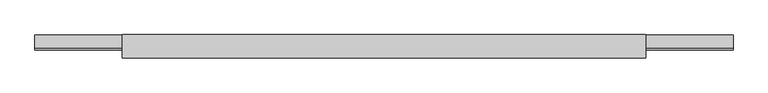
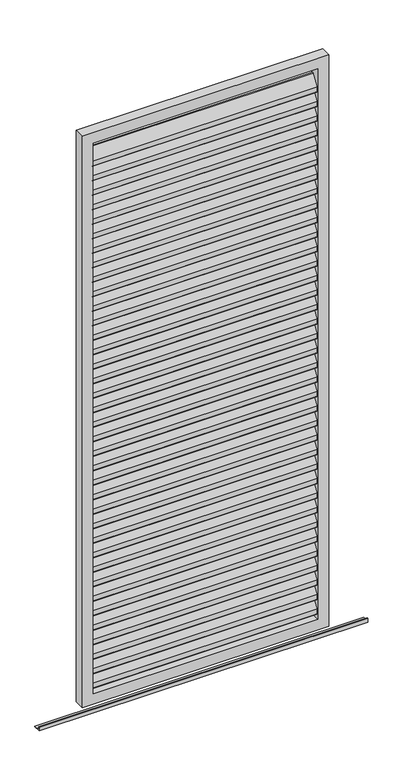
"""IFC4 building model written with IfcOpenShell, lengths in millimetres: proxy geometry."""

import ifcopenshell
import ifcopenshell.guid

model = None  # the IFC model being written
_history = None  # IfcOwnerHistory: only IFC2X3 demands one
_inside = {}  # id of a spatial element -> (the spatial element, [elements in it])
_under = {}  # id of a project, library or spatial element -> (it, [spatial elements below it])
_declared = {}  # id of a project -> (the project, [libraries it declares])
_typed = {}  # id of a type object -> (the type object, [elements of that type])
_made_of = {}  # id of a material, layer set ... -> (it, [elements and type objects made of it])


def new_model(schema):
    """Start an empty IFC model of exactly this schema.

    Asked for "IFC4X3", IfcOpenShell would pick the latest addendum, in which some entities
    have other attributes; the version numbers below select the first issue.
    IFC2X3 requires an IfcOwnerHistory on every rooted entity: one is made here for all.
    """
    global model, _history
    if schema == "IFC4X3":
        model = ifcopenshell.file(schema_version=(4, 3, 0, 0))
    else:
        model = ifcopenshell.file(schema=schema)
    _inside.clear()
    _under.clear()
    _declared.clear()
    _typed.clear()
    _made_of.clear()
    _history = None
    if model.schema == "IFC2X3":
        org = make("IfcOrganization", Name="unknown")
        user = make(
            "IfcPersonAndOrganization",
            ThePerson=make("IfcPerson", FamilyName="unknown"),
            TheOrganization=org,
        )
        app = make(
            "IfcApplication",
            ApplicationDeveloper=org,
            Version="unknown",
            ApplicationFullName="unknown",
            ApplicationIdentifier="unknown",
        )
        _history = make(
            "IfcOwnerHistory",
            OwningUser=user,
            OwningApplication=app,
            ChangeAction="ADDED",
            CreationDate=0,
        )
    return model


def make(cls, **values):
    """One entity of the class cls with the attributes given. An attribute that is None is left unset."""
    return model.create_entity(
        cls, **{name: value for name, value in values.items() if value is not None}
    )


def rooted(cls, **values):
    """An entity with a GlobalId (a new one), such as an element, a storey or a relation."""
    return make(cls, GlobalId=ifcopenshell.guid.new(), OwnerHistory=_history, **values)


def si_unit(unit_type, name, prefix=None):
    """IfcSIUnit, for example si_unit("LENGTHUNIT", "METRE", prefix="MILLI")."""
    return make("IfcSIUnit", UnitType=unit_type, Prefix=prefix, Name=name)


def assignment(units):
    """IfcUnitAssignment: the units of a project."""
    return None if units is None else make("IfcUnitAssignment", Units=units)


def point(xyz):
    """IfcCartesianPoint."""
    return None if xyz is None else make("IfcCartesianPoint", Coordinates=xyz)


def direction(xyz):
    """IfcDirection."""
    return None if xyz is None else make("IfcDirection", DirectionRatios=xyz)


def frame(location, z_axis=None, x_axis=None):
    """IfcAxis2Placement3D, a coordinate frame: its origin and axes. An axis left out is left unset."""
    return make(
        "IfcAxis2Placement3D",
        Location=point(location),
        Axis=direction(z_axis),
        RefDirection=direction(x_axis),
    )


def frame_2d(location, x_axis=None):
    """IfcAxis2Placement2D, a coordinate frame in the plane: its origin and x axis."""
    return make(
        "IfcAxis2Placement2D", Location=point(location), RefDirection=direction(x_axis)
    )


def origin():
    """The frame at (0, 0, 0) with its axes left unset."""
    return frame((0.0, 0.0, 0.0))


def place(relative_to, where):
    """IfcLocalPlacement: puts the frame where relative to a parent placement (None: the world)."""
    return make(
        "IfcLocalPlacement", PlacementRelTo=relative_to, RelativePlacement=where
    )


def context(
    kind, dimensions, precision=None, world=None, true_north=None, identifier=None
):
    """IfcGeometricRepresentationContext, for example the 3D "Model" context."""
    return make(
        "IfcGeometricRepresentationContext",
        ContextIdentifier=identifier,
        ContextType=kind,
        CoordinateSpaceDimension=dimensions,
        Precision=precision,
        WorldCoordinateSystem=world,
        TrueNorth=true_north,
    )


def project(units=None, contexts=None):
    """IfcProject with its units and contexts."""
    return rooted(
        "IfcProject",
        Name="project",
        RepresentationContexts=contexts,
        UnitsInContext=assignment(units),
    )


def spatial(cls, under=None, at=None, **own):
    """A site, building, storey or space (cls), placed at a placement, below another one or the project."""
    s = rooted(cls, ObjectPlacement=at, **own)
    if under is not None:
        _under.setdefault(under.id(), (under, []))[1].append(s)
    return s


def polyline(points):
    """IfcPolyline through the points."""
    return make("IfcPolyline", Points=[point(p) for p in points])


def circle_curve(where, radius):
    """IfcCircle in the frame where."""
    return make("IfcCircle", Position=where, Radius=radius)


def trimmed(basis, trim1, trim2, sense, master):
    """IfcTrimmedCurve: the piece of a basis curve between two trims."""
    return make(
        "IfcTrimmedCurve",
        BasisCurve=basis,
        Trim1=trim1,
        Trim2=trim2,
        SenseAgreement=sense,
        MasterRepresentation=master,
    )


def segment(curve, same_sense, transition):
    """IfcCompositeCurveSegment."""
    return make(
        "IfcCompositeCurveSegment",
        Transition=transition,
        SameSense=same_sense,
        ParentCurve=curve,
    )


def composite_curve(segments, self_intersect=None):
    """IfcCompositeCurve: segments joined end to end."""
    return make("IfcCompositeCurve", Segments=segments, SelfIntersect=self_intersect)


def outline(outer, holes=None, kind="AREA"):
    """IfcArbitraryClosedProfileDef: a profile drawn as a closed curve; with holes, ...WithVoids."""
    if holes is None:
        return make("IfcArbitraryClosedProfileDef", ProfileType=kind, OuterCurve=outer)
    return make(
        "IfcArbitraryProfileDefWithVoids",
        ProfileType=kind,
        OuterCurve=outer,
        InnerCurves=holes,
    )


def extrude(swept, where, along, depth):
    """IfcExtrudedAreaSolid: the profile swept, set in the frame where, extruded along a direction by depth."""
    return make(
        "IfcExtrudedAreaSolid",
        SweptArea=swept,
        Position=where,
        ExtrudedDirection=direction(along),
        Depth=depth,
    )


def shape(context_of_items, identifier, shape_type, items):
    """IfcShapeRepresentation: the items that make up one representation, for example the "Body"."""
    return make(
        "IfcShapeRepresentation",
        ContextOfItems=context_of_items,
        RepresentationIdentifier=identifier,
        RepresentationType=shape_type,
        Items=items,
    )


def source(mapping_origin, context_of_items, identifier, shape_type, items):
    """IfcRepresentationMap: a shape defined once, which mapped items show again and again."""
    return make(
        "IfcRepresentationMap",
        MappingOrigin=mapping_origin,
        MappedRepresentation=shape(context_of_items, identifier, shape_type, items),
    )


def transform(
    local_origin,
    x_axis=None,
    y_axis=None,
    z_axis=None,
    scale=None,
    scale2=None,
    scale3=None,
    uniform=True,
):
    """IfcCartesianTransformationOperator3D, or its non-uniform kind. x_axis, y_axis, z_axis: its Axis1, 2, 3."""
    if uniform:
        return make(
            "IfcCartesianTransformationOperator3D",
            Axis1=direction(x_axis),
            Axis2=direction(y_axis),
            LocalOrigin=point(local_origin),
            Scale=scale,
            Axis3=direction(z_axis),
        )
    return make(
        "IfcCartesianTransformationOperator3DnonUniform",
        Axis1=direction(x_axis),
        Axis2=direction(y_axis),
        LocalOrigin=point(local_origin),
        Scale=scale,
        Axis3=direction(z_axis),
        Scale2=scale2,
        Scale3=scale3,
    )


def mapped(mapping_source, mapping_target):
    """IfcMappedItem: shows the shape of a source again, moved by a transform."""
    return make(
        "IfcMappedItem", MappingSource=mapping_source, MappingTarget=mapping_target
    )


def made_of(thing, what):
    """Note that an element or type object is made of a material, layer set ...; save() writes the relation."""
    if what is not None:
        _made_of.setdefault(what.id(), (what, []))[1].append(thing)
    return thing


def element(
    cls,
    number,
    at=None,
    inside=None,
    cuts=None,
    type_object=None,
    material=None,
    context=None,
    identifier="Body",
    shape_type=None,
    held_by="IfcProductDefinitionShape",
    body=None,
    shapes=None,
    **own,
):
    """One element of the class cls, such as IfcWall. Its Tag is "e" and its number.

    at: its placement. inside: the storey or other place that contains it. cuts: it is an
    opening in that element (IfcRelVoidsElement). A single representation is given by context,
    identifier, shape_type and body (its items); several are given by shapes. held_by: the class
    of the entity that holds the representations. save() writes the other relations.
    """
    e = rooted(cls, Tag="e%d" % number, ObjectPlacement=at, **own)
    if body is not None:
        shapes = [shape(context, identifier, shape_type, body)]
    if shapes is not None:
        e.Representation = make(held_by, Representations=shapes)
    if inside is not None:
        _inside.setdefault(inside.id(), (inside, []))[1].append(e)
    if cuts is not None:
        rooted(
            "IfcRelVoidsElement", RelatingBuildingElement=cuts, RelatedOpeningElement=e
        )
    if type_object is not None:
        _typed.setdefault(type_object.id(), (type_object, []))[1].append(e)
    return made_of(e, material)


def aggregate(whole, parts):
    """IfcRelAggregates: a whole, such as a stair, and the parts it consists of."""
    return rooted("IfcRelAggregates", RelatingObject=whole, RelatedObjects=parts)


def save(model, path):
    """Write the relations noted so far, then the file.

    IfcRelAggregates (storeys below a building ...), IfcRelContainedInSpatialStructure (elements
    in a storey), IfcRelDefinesByType, IfcRelAssociatesMaterial and IfcRelDeclares: one each for
    every whole, place, type object, material and project.
    """
    for whole, parts in _under.values():
        aggregate(whole, parts)
    for where, things in _inside.values():
        rooted(
            "IfcRelContainedInSpatialStructure",
            RelatedElements=things,
            RelatingStructure=where,
        )
    for kind, things in _typed.values():
        rooted("IfcRelDefinesByType", RelatedObjects=things, RelatingType=kind)
    for what, things in _made_of.values():
        rooted("IfcRelAssociatesMaterial", RelatedObjects=things, RelatingMaterial=what)
    for by, libraries in _declared.values():
        rooted("IfcRelDeclares", RelatingContext=by, RelatedDefinitions=libraries)
    model.write(path)


def generic_models_5eeff375(model_context):
    return source(origin(), model_context, "Body", "SweptSolid", [
        extrude(outline(composite_curve([segment(trimmed(circle_curve(frame_2d((12.6675921, 2173.678711)), 3.0), [point((10.1515804, 2175.3126281))], [point((15.6675921, 2173.678711))], False, "CARTESIAN"), True, "CONTINUOUS"), segment(polyline([(15.6675921, 2173.678711), (15.6675921, 2155.3179264)]), True, "CONTINUOUS"), segment(trimmed(circle_curve(frame_2d((12.6675921, 2155.3179264)), 3.0), [point((15.6675921, 2155.3179264))], [point((15.1836038, 2153.6840093))], False, "CARTESIAN"), True, "CONTINUOUS"), segment(polyline([(15.1836038, 2153.6840093), (-8.8163962, 2116.7272502)]), True, "CONTINUOUS"), segment(trimmed(circle_curve(frame_2d((-11.3324079, 2118.3611673)), 3.0), [point((-8.8163962, 2116.7272502))], [point((-14.3324079, 2118.3611673))], False, "CARTESIAN"), True, "CONTINUOUS"), segment(polyline([(-14.3324079, 2118.3611673), (-14.3324079, 2137.6105924), (10.1515804, 2175.3126281)]), True, "CONTINUOUS")], self_intersect=False)), frame((-410.0, 0.0, 0.0), z_axis=(1.0, 0.0, 0.0), x_axis=(0.0, 1.0, 0.0)), (0.0, 0.0, 1.0), 820.0),
        extrude(outline(composite_curve([segment(trimmed(circle_curve(frame_2d((12.6675921, 2117.7067127)), 3.0), [point((10.1515804, 2119.3406298))], [point((15.6675921, 2117.7067127))], False, "CARTESIAN"), True, "CONTINUOUS"), segment(polyline([(15.6675921, 2117.7067127), (15.6675921, 2099.3459282)]), True, "CONTINUOUS"), segment(trimmed(circle_curve(frame_2d((12.6675921, 2099.3459282)), 3.0), [point((15.6675921, 2099.3459282))], [point((15.1836038, 2097.7120111))], False, "CARTESIAN"), True, "CONTINUOUS"), segment(polyline([(15.1836038, 2097.7120111), (-8.8163962, 2060.7552519)]), True, "CONTINUOUS"), segment(trimmed(circle_curve(frame_2d((-11.3324079, 2062.389169)), 3.0), [point((-8.8163962, 2060.7552519))], [point((-14.3324079, 2062.389169))], False, "CARTESIAN"), True, "CONTINUOUS"), segment(polyline([(-14.3324079, 2062.389169), (-14.3324079, 2081.6385941), (10.1515804, 2119.3406298)]), True, "CONTINUOUS")], self_intersect=False)), frame((-410.0, 0.0, 0.0), z_axis=(1.0, 0.0, 0.0), x_axis=(0.0, 1.0, 0.0)), (0.0, 0.0, 1.0), 820.0),
        extrude(outline(composite_curve([segment(trimmed(circle_curve(frame_2d((12.6675921, 2061.7347145)), 3.0), [point((10.1515804, 2063.3686316))], [point((15.6675921, 2061.7347145))], False, "CARTESIAN"), True, "CONTINUOUS"), segment(polyline([(15.6675921, 2061.7347145), (15.6675921, 2043.3739299)]), True, "CONTINUOUS"), segment(trimmed(circle_curve(frame_2d((12.6675921, 2043.3739299)), 3.0), [point((15.6675921, 2043.3739299))], [point((15.1836038, 2041.7400128))], False, "CARTESIAN"), True, "CONTINUOUS"), segment(polyline([(15.1836038, 2041.7400128), (-8.8163962, 2004.7832537)]), True, "CONTINUOUS"), segment(trimmed(circle_curve(frame_2d((-11.3324079, 2006.4171708)), 3.0), [point((-8.8163962, 2004.7832537))], [point((-14.3324079, 2006.4171708))], False, "CARTESIAN"), True, "CONTINUOUS"), segment(polyline([(-14.3324079, 2006.4171708), (-14.3324079, 2025.6665958), (10.1515804, 2063.3686316)]), True, "CONTINUOUS")], self_intersect=False)), frame((-410.0, 0.0, 0.0), z_axis=(1.0, 0.0, 0.0), x_axis=(0.0, 1.0, 0.0)), (0.0, 0.0, 1.0), 820.0),
        extrude(outline(composite_curve([segment(trimmed(circle_curve(frame_2d((12.6675921, 2005.7627162)), 3.0), [point((10.1515804, 2007.3966333))], [point((15.6675921, 2005.7627162))], False, "CARTESIAN"), True, "CONTINUOUS"), segment(polyline([(15.6675921, 2005.7627162), (15.6675921, 1987.4019316)]), True, "CONTINUOUS"), segment(trimmed(circle_curve(frame_2d((12.6675921, 1987.4019316)), 3.0), [point((15.6675921, 1987.4019316))], [point((15.1836038, 1985.7680145))], False, "CARTESIAN"), True, "CONTINUOUS"), segment(polyline([(15.1836038, 1985.7680145), (-8.8163962, 1948.8112554)]), True, "CONTINUOUS"), segment(trimmed(circle_curve(frame_2d((-11.3324079, 1950.4451725)), 3.0), [point((-8.8163962, 1948.8112554))], [point((-14.3324079, 1950.4451725))], False, "CARTESIAN"), True, "CONTINUOUS"), segment(polyline([(-14.3324079, 1950.4451725), (-14.3324079, 1969.6945976), (10.1515804, 2007.3966333)]), True, "CONTINUOUS")], self_intersect=False)), frame((-410.0, 0.0, 0.0), z_axis=(1.0, 0.0, 0.0), x_axis=(0.0, 1.0, 0.0)), (0.0, 0.0, 1.0), 820.0),
        extrude(outline(composite_curve([segment(trimmed(circle_curve(frame_2d((12.6675921, 1949.790718)), 3.0), [point((10.1515804, 1951.4246351))], [point((15.6675921, 1949.790718))], False, "CARTESIAN"), True, "CONTINUOUS"), segment(polyline([(15.6675921, 1949.790718), (15.6675921, 1931.4299334)]), True, "CONTINUOUS"), segment(trimmed(circle_curve(frame_2d((12.6675921, 1931.4299334)), 3.0), [point((15.6675921, 1931.4299334))], [point((15.1836038, 1929.7960163))], False, "CARTESIAN"), True, "CONTINUOUS"), segment(polyline([(15.1836038, 1929.7960163), (-8.8163962, 1892.8392571)]), True, "CONTINUOUS"), segment(trimmed(circle_curve(frame_2d((-11.3324079, 1894.4731742)), 3.0), [point((-8.8163962, 1892.8392571))], [point((-14.3324079, 1894.4731742))], False, "CARTESIAN"), True, "CONTINUOUS"), segment(polyline([(-14.3324079, 1894.4731742), (-14.3324079, 1913.7225993), (10.1515804, 1951.4246351)]), True, "CONTINUOUS")], self_intersect=False)), frame((-410.0, 0.0, 0.0), z_axis=(1.0, 0.0, 0.0), x_axis=(0.0, 1.0, 0.0)), (0.0, 0.0, 1.0), 820.0),
        extrude(outline(composite_curve([segment(trimmed(circle_curve(frame_2d((12.6675921, 1893.8187197)), 3.0), [point((10.1515804, 1895.4526368))], [point((15.6675921, 1893.8187197))], False, "CARTESIAN"), True, "CONTINUOUS"), segment(polyline([(15.6675921, 1893.8187197), (15.6675921, 1875.4579351)]), True, "CONTINUOUS"), segment(trimmed(circle_curve(frame_2d((12.6675921, 1875.4579351)), 3.0), [point((15.6675921, 1875.4579351))], [point((15.1836038, 1873.824018))], False, "CARTESIAN"), True, "CONTINUOUS"), segment(polyline([(15.1836038, 1873.824018), (-8.8163962, 1836.8672589)]), True, "CONTINUOUS"), segment(trimmed(circle_curve(frame_2d((-11.3324079, 1838.501176)), 3.0), [point((-8.8163962, 1836.8672589))], [point((-14.3324079, 1838.501176))], False, "CARTESIAN"), True, "CONTINUOUS"), segment(polyline([(-14.3324079, 1838.501176), (-14.3324079, 1857.7506011), (10.1515804, 1895.4526368)]), True, "CONTINUOUS")], self_intersect=False)), frame((-410.0, 0.0, 0.0), z_axis=(1.0, 0.0, 0.0), x_axis=(0.0, 1.0, 0.0)), (0.0, 0.0, 1.0), 820.0),
        extrude(outline(composite_curve([segment(trimmed(circle_curve(frame_2d((12.6675921, 1837.8467214)), 3.0), [point((10.1515804, 1839.4806385))], [point((15.6675921, 1837.8467214))], False, "CARTESIAN"), True, "CONTINUOUS"), segment(polyline([(15.6675921, 1837.8467214), (15.6675921, 1819.4859368)]), True, "CONTINUOUS"), segment(trimmed(circle_curve(frame_2d((12.6675921, 1819.4859368)), 3.0), [point((15.6675921, 1819.4859368))], [point((15.1836038, 1817.8520197))], False, "CARTESIAN"), True, "CONTINUOUS"), segment(polyline([(15.1836038, 1817.8520197), (-8.8163962, 1780.8952606)]), True, "CONTINUOUS"), segment(trimmed(circle_curve(frame_2d((-11.3324079, 1782.5291777)), 3.0), [point((-8.8163962, 1780.8952606))], [point((-14.3324079, 1782.5291777))], False, "CARTESIAN"), True, "CONTINUOUS"), segment(polyline([(-14.3324079, 1782.5291777), (-14.3324079, 1801.7786028), (10.1515804, 1839.4806385)]), True, "CONTINUOUS")], self_intersect=False)), frame((-410.0, 0.0, 0.0), z_axis=(1.0, 0.0, 0.0), x_axis=(0.0, 1.0, 0.0)), (0.0, 0.0, 1.0), 820.0),
        extrude(outline(composite_curve([segment(trimmed(circle_curve(frame_2d((12.6675921, 1781.8747232)), 3.0), [point((10.1515804, 1783.5086403))], [point((15.6675921, 1781.8747232))], False, "CARTESIAN"), True, "CONTINUOUS"), segment(polyline([(15.6675921, 1781.8747232), (15.6675921, 1763.5139386)]), True, "CONTINUOUS"), segment(trimmed(circle_curve(frame_2d((12.6675921, 1763.5139386)), 3.0), [point((15.6675921, 1763.5139386))], [point((15.1836038, 1761.8800215))], False, "CARTESIAN"), True, "CONTINUOUS"), segment(polyline([(15.1836038, 1761.8800215), (-8.8163962, 1724.9232624)]), True, "CONTINUOUS"), segment(trimmed(circle_curve(frame_2d((-11.3324079, 1726.5571795)), 3.0), [point((-8.8163962, 1724.9232624))], [point((-14.3324079, 1726.5571795))], False, "CARTESIAN"), True, "CONTINUOUS"), segment(polyline([(-14.3324079, 1726.5571795), (-14.3324079, 1745.8066045), (10.1515804, 1783.5086403)]), True, "CONTINUOUS")], self_intersect=False)), frame((-410.0, 0.0, 0.0), z_axis=(1.0, 0.0, 0.0), x_axis=(0.0, 1.0, 0.0)), (0.0, 0.0, 1.0), 820.0),
        extrude(outline(composite_curve([segment(trimmed(circle_curve(frame_2d((12.6675921, 1725.9027249)), 3.0), [point((10.1515804, 1727.536642))], [point((15.6675921, 1725.9027249))], False, "CARTESIAN"), True, "CONTINUOUS"), segment(polyline([(15.6675921, 1725.9027249), (15.6675921, 1707.5419403)]), True, "CONTINUOUS"), segment(trimmed(circle_curve(frame_2d((12.6675921, 1707.5419403)), 3.0), [point((15.6675921, 1707.5419403))], [point((15.1836038, 1705.9080232))], False, "CARTESIAN"), True, "CONTINUOUS"), segment(polyline([(15.1836038, 1705.9080232), (-8.8163962, 1668.9512641)]), True, "CONTINUOUS"), segment(trimmed(circle_curve(frame_2d((-11.3324079, 1670.5851812)), 3.0), [point((-8.8163962, 1668.9512641))], [point((-14.3324079, 1670.5851812))], False, "CARTESIAN"), True, "CONTINUOUS"), segment(polyline([(-14.3324079, 1670.5851812), (-14.3324079, 1689.8346063), (10.1515804, 1727.536642)]), True, "CONTINUOUS")], self_intersect=False)), frame((-410.0, 0.0, 0.0), z_axis=(1.0, 0.0, 0.0), x_axis=(0.0, 1.0, 0.0)), (0.0, 0.0, 1.0), 820.0),
        extrude(outline(composite_curve([segment(trimmed(circle_curve(frame_2d((12.6675921, 1669.9307267)), 3.0), [point((10.1515804, 1671.5646438))], [point((15.6675921, 1669.9307267))], False, "CARTESIAN"), True, "CONTINUOUS"), segment(polyline([(15.6675921, 1669.9307267), (15.6675921, 1651.5699421)]), True, "CONTINUOUS"), segment(trimmed(circle_curve(frame_2d((12.6675921, 1651.5699421)), 3.0), [point((15.6675921, 1651.5699421))], [point((15.1836038, 1649.936025))], False, "CARTESIAN"), True, "CONTINUOUS"), segment(polyline([(15.1836038, 1649.936025), (-8.8163962, 1612.9792658)]), True, "CONTINUOUS"), segment(trimmed(circle_curve(frame_2d((-11.3324079, 1614.6131829)), 3.0), [point((-8.8163962, 1612.9792658))], [point((-14.3324079, 1614.6131829))], False, "CARTESIAN"), True, "CONTINUOUS"), segment(polyline([(-14.3324079, 1614.6131829), (-14.3324079, 1633.862608), (10.1515804, 1671.5646438)]), True, "CONTINUOUS")], self_intersect=False)), frame((-410.0, 0.0, 0.0), z_axis=(1.0, 0.0, 0.0), x_axis=(0.0, 1.0, 0.0)), (0.0, 0.0, 1.0), 820.0),
        extrude(outline(composite_curve([segment(trimmed(circle_curve(frame_2d((12.6675921, 1613.9587284)), 3.0), [point((10.1515804, 1615.5926455))], [point((15.6675921, 1613.9587284))], False, "CARTESIAN"), True, "CONTINUOUS"), segment(polyline([(15.6675921, 1613.9587284), (15.6675921, 1595.5979438)]), True, "CONTINUOUS"), segment(trimmed(circle_curve(frame_2d((12.6675921, 1595.5979438)), 3.0), [point((15.6675921, 1595.5979438))], [point((15.1836038, 1593.9640267))], False, "CARTESIAN"), True, "CONTINUOUS"), segment(polyline([(15.1836038, 1593.9640267), (-8.8163962, 1557.0072676)]), True, "CONTINUOUS"), segment(trimmed(circle_curve(frame_2d((-11.3324079, 1558.6411847)), 3.0), [point((-8.8163962, 1557.0072676))], [point((-14.3324079, 1558.6411847))], False, "CARTESIAN"), True, "CONTINUOUS"), segment(polyline([(-14.3324079, 1558.6411847), (-14.3324079, 1577.8906097), (10.1515804, 1615.5926455)]), True, "CONTINUOUS")], self_intersect=False)), frame((-410.0, 0.0, 0.0), z_axis=(1.0, 0.0, 0.0), x_axis=(0.0, 1.0, 0.0)), (0.0, 0.0, 1.0), 820.0),
        extrude(outline(composite_curve([segment(trimmed(circle_curve(frame_2d((12.6675921, 1557.9867301)), 3.0), [point((10.1515804, 1559.6206472))], [point((15.6675921, 1557.9867301))], False, "CARTESIAN"), True, "CONTINUOUS"), segment(polyline([(15.6675921, 1557.9867301), (15.6675921, 1539.6259455)]), True, "CONTINUOUS"), segment(trimmed(circle_curve(frame_2d((12.6675921, 1539.6259455)), 3.0), [point((15.6675921, 1539.6259455))], [point((15.1836038, 1537.9920284))], False, "CARTESIAN"), True, "CONTINUOUS"), segment(polyline([(15.1836038, 1537.9920284), (-8.8163962, 1501.0352693)]), True, "CONTINUOUS"), segment(trimmed(circle_curve(frame_2d((-11.3324079, 1502.6691864)), 3.0), [point((-8.8163962, 1501.0352693))], [point((-14.3324079, 1502.6691864))], False, "CARTESIAN"), True, "CONTINUOUS"), segment(polyline([(-14.3324079, 1502.6691864), (-14.3324079, 1521.9186115), (10.1515804, 1559.6206472)]), True, "CONTINUOUS")], self_intersect=False)), frame((-410.0, 0.0, 0.0), z_axis=(1.0, 0.0, 0.0), x_axis=(0.0, 1.0, 0.0)), (0.0, 0.0, 1.0), 820.0),
        extrude(outline(composite_curve([segment(trimmed(circle_curve(frame_2d((12.6675921, 1502.0147319)), 3.0), [point((10.1515804, 1503.648649))], [point((15.6675921, 1502.0147319))], False, "CARTESIAN"), True, "CONTINUOUS"), segment(polyline([(15.6675921, 1502.0147319), (15.6675921, 1483.6539473)]), True, "CONTINUOUS"), segment(trimmed(circle_curve(frame_2d((12.6675921, 1483.6539473)), 3.0), [point((15.6675921, 1483.6539473))], [point((15.1836038, 1482.0200302))], False, "CARTESIAN"), True, "CONTINUOUS"), segment(polyline([(15.1836038, 1482.0200302), (-8.8163962, 1445.063271)]), True, "CONTINUOUS"), segment(trimmed(circle_curve(frame_2d((-11.3324079, 1446.6971881)), 3.0), [point((-8.8163962, 1445.063271))], [point((-14.3324079, 1446.6971881))], False, "CARTESIAN"), True, "CONTINUOUS"), segment(polyline([(-14.3324079, 1446.6971881), (-14.3324079, 1465.9466132), (10.1515804, 1503.648649)]), True, "CONTINUOUS")], self_intersect=False)), frame((-410.0, 0.0, 0.0), z_axis=(1.0, 0.0, 0.0), x_axis=(0.0, 1.0, 0.0)), (0.0, 0.0, 1.0), 820.0),
        extrude(outline(composite_curve([segment(trimmed(circle_curve(frame_2d((12.6675921, 1446.0427336)), 3.0), [point((10.1515804, 1447.6766507))], [point((15.6675921, 1446.0427336))], False, "CARTESIAN"), True, "CONTINUOUS"), segment(polyline([(15.6675921, 1446.0427336), (15.6675921, 1427.681949)]), True, "CONTINUOUS"), segment(trimmed(circle_curve(frame_2d((12.6675921, 1427.681949)), 3.0), [point((15.6675921, 1427.681949))], [point((15.1836038, 1426.0480319))], False, "CARTESIAN"), True, "CONTINUOUS"), segment(polyline([(15.1836038, 1426.0480319), (-8.8163962, 1389.0912728)]), True, "CONTINUOUS"), segment(trimmed(circle_curve(frame_2d((-11.3324079, 1390.7251899)), 3.0), [point((-8.8163962, 1389.0912728))], [point((-14.3324079, 1390.7251899))], False, "CARTESIAN"), True, "CONTINUOUS"), segment(polyline([(-14.3324079, 1390.7251899), (-14.3324079, 1409.974615), (10.1515804, 1447.6766507)]), True, "CONTINUOUS")], self_intersect=False)), frame((-410.0, 0.0, 0.0), z_axis=(1.0, 0.0, 0.0), x_axis=(0.0, 1.0, 0.0)), (0.0, 0.0, 1.0), 820.0),
        extrude(outline(composite_curve([segment(trimmed(circle_curve(frame_2d((12.6675921, 1390.0707353)), 3.0), [point((10.1515804, 1391.7046525))], [point((15.6675921, 1390.0707353))], False, "CARTESIAN"), True, "CONTINUOUS"), segment(polyline([(15.6675921, 1390.0707353), (15.6675921, 1371.7099508)]), True, "CONTINUOUS"), segment(trimmed(circle_curve(frame_2d((12.6675921, 1371.7099508)), 3.0), [point((15.6675921, 1371.7099508))], [point((15.1836038, 1370.0760337))], False, "CARTESIAN"), True, "CONTINUOUS"), segment(polyline([(15.1836038, 1370.0760337), (-8.8163962, 1333.1192745)]), True, "CONTINUOUS"), segment(trimmed(circle_curve(frame_2d((-11.3324079, 1334.7531916)), 3.0), [point((-8.8163962, 1333.1192745))], [point((-14.3324079, 1334.7531916))], False, "CARTESIAN"), True, "CONTINUOUS"), segment(polyline([(-14.3324079, 1334.7531916), (-14.3324079, 1354.0026167), (10.1515804, 1391.7046525)]), True, "CONTINUOUS")], self_intersect=False)), frame((-410.0, 0.0, 0.0), z_axis=(1.0, 0.0, 0.0), x_axis=(0.0, 1.0, 0.0)), (0.0, 0.0, 1.0), 820.0),
        extrude(outline(composite_curve([segment(trimmed(circle_curve(frame_2d((12.6675921, 1334.0987371)), 3.0), [point((10.1515804, 1335.7326542))], [point((15.6675921, 1334.0987371))], False, "CARTESIAN"), True, "CONTINUOUS"), segment(polyline([(15.6675921, 1334.0987371), (15.6675921, 1315.7379525)]), True, "CONTINUOUS"), segment(trimmed(circle_curve(frame_2d((12.6675921, 1315.7379525)), 3.0), [point((15.6675921, 1315.7379525))], [point((15.1836038, 1314.1040354))], False, "CARTESIAN"), True, "CONTINUOUS"), segment(polyline([(15.1836038, 1314.1040354), (-8.8163962, 1277.1472763)]), True, "CONTINUOUS"), segment(trimmed(circle_curve(frame_2d((-11.3324079, 1278.7811934)), 3.0), [point((-8.8163962, 1277.1472763))], [point((-14.3324079, 1278.7811934))], False, "CARTESIAN"), True, "CONTINUOUS"), segment(polyline([(-14.3324079, 1278.7811934), (-14.3324079, 1298.0306184), (10.1515804, 1335.7326542)]), True, "CONTINUOUS")], self_intersect=False)), frame((-410.0, 0.0, 0.0), z_axis=(1.0, 0.0, 0.0), x_axis=(0.0, 1.0, 0.0)), (0.0, 0.0, 1.0), 820.0),
        extrude(outline(composite_curve([segment(trimmed(circle_curve(frame_2d((12.6675921, 1278.1267388)), 3.0), [point((10.1515804, 1279.7606559))], [point((15.6675921, 1278.1267388))], False, "CARTESIAN"), True, "CONTINUOUS"), segment(polyline([(15.6675921, 1278.1267388), (15.6675921, 1259.7659542)]), True, "CONTINUOUS"), segment(trimmed(circle_curve(frame_2d((12.6675921, 1259.7659542)), 3.0), [point((15.6675921, 1259.7659542))], [point((15.1836038, 1258.1320371))], False, "CARTESIAN"), True, "CONTINUOUS"), segment(polyline([(15.1836038, 1258.1320371), (-8.8163962, 1221.175278)]), True, "CONTINUOUS"), segment(trimmed(circle_curve(frame_2d((-11.3324079, 1222.8091951)), 3.0), [point((-8.8163962, 1221.175278))], [point((-14.3324079, 1222.8091951))], False, "CARTESIAN"), True, "CONTINUOUS"), segment(polyline([(-14.3324079, 1222.8091951), (-14.3324079, 1242.0586202), (10.1515804, 1279.7606559)]), True, "CONTINUOUS")], self_intersect=False)), frame((-410.0, 0.0, 0.0), z_axis=(1.0, 0.0, 0.0), x_axis=(0.0, 1.0, 0.0)), (0.0, 0.0, 1.0), 820.0),
        extrude(outline(composite_curve([segment(trimmed(circle_curve(frame_2d((12.6675921, 1222.1547406)), 3.0), [point((10.1515804, 1223.7886577))], [point((15.6675921, 1222.1547406))], False, "CARTESIAN"), True, "CONTINUOUS"), segment(polyline([(15.6675921, 1222.1547406), (15.6675921, 1203.793956)]), True, "CONTINUOUS"), segment(trimmed(circle_curve(frame_2d((12.6675921, 1203.793956)), 3.0), [point((15.6675921, 1203.793956))], [point((15.1836038, 1202.1600389))], False, "CARTESIAN"), True, "CONTINUOUS"), segment(polyline([(15.1836038, 1202.1600389), (-8.8163962, 1165.2032797)]), True, "CONTINUOUS"), segment(trimmed(circle_curve(frame_2d((-11.3324079, 1166.8371968)), 3.0), [point((-8.8163962, 1165.2032797))], [point((-14.3324079, 1166.8371968))], False, "CARTESIAN"), True, "CONTINUOUS"), segment(polyline([(-14.3324079, 1166.8371968), (-14.3324079, 1186.0866219), (10.1515804, 1223.7886577)]), True, "CONTINUOUS")], self_intersect=False)), frame((-410.0, 0.0, 0.0), z_axis=(1.0, 0.0, 0.0), x_axis=(0.0, 1.0, 0.0)), (0.0, 0.0, 1.0), 820.0),
        extrude(outline(composite_curve([segment(trimmed(circle_curve(frame_2d((12.6675921, 1166.1827423)), 3.0), [point((10.1515804, 1167.8166594))], [point((15.6675921, 1166.1827423))], False, "CARTESIAN"), True, "CONTINUOUS"), segment(polyline([(15.6675921, 1166.1827423), (15.6675921, 1147.8219577)]), True, "CONTINUOUS"), segment(trimmed(circle_curve(frame_2d((12.6675921, 1147.8219577)), 3.0), [point((15.6675921, 1147.8219577))], [point((15.1836038, 1146.1880406))], False, "CARTESIAN"), True, "CONTINUOUS"), segment(polyline([(15.1836038, 1146.1880406), (-8.8163962, 1109.2312815)]), True, "CONTINUOUS"), segment(trimmed(circle_curve(frame_2d((-11.3324079, 1110.8651986)), 3.0), [point((-8.8163962, 1109.2312815))], [point((-14.3324079, 1110.8651986))], False, "CARTESIAN"), True, "CONTINUOUS"), segment(polyline([(-14.3324079, 1110.8651986), (-14.3324079, 1130.1146237), (10.1515804, 1167.8166594)]), True, "CONTINUOUS")], self_intersect=False)), frame((-410.0, 0.0, 0.0), z_axis=(1.0, 0.0, 0.0), x_axis=(0.0, 1.0, 0.0)), (0.0, 0.0, 1.0), 820.0),
        extrude(outline(composite_curve([segment(trimmed(circle_curve(frame_2d((12.6675921, 1110.210744)), 3.0), [point((10.1515804, 1111.8446611))], [point((15.6675921, 1110.210744))], False, "CARTESIAN"), True, "CONTINUOUS"), segment(polyline([(15.6675921, 1110.210744), (15.6675921, 1091.8499595)]), True, "CONTINUOUS"), segment(trimmed(circle_curve(frame_2d((12.6675921, 1091.8499595)), 3.0), [point((15.6675921, 1091.8499595))], [point((15.1836038, 1090.2160423))], False, "CARTESIAN"), True, "CONTINUOUS"), segment(polyline([(15.1836038, 1090.2160423), (-8.8163962, 1053.2592832)]), True, "CONTINUOUS"), segment(trimmed(circle_curve(frame_2d((-11.3324079, 1054.8932003)), 3.0), [point((-8.8163962, 1053.2592832))], [point((-14.3324079, 1054.8932003))], False, "CARTESIAN"), True, "CONTINUOUS"), segment(polyline([(-14.3324079, 1054.8932003), (-14.3324079, 1074.1426254), (10.1515804, 1111.8446611)]), True, "CONTINUOUS")], self_intersect=False)), frame((-410.0, 0.0, 0.0), z_axis=(1.0, 0.0, 0.0), x_axis=(0.0, 1.0, 0.0)), (0.0, 0.0, 1.0), 820.0),
        extrude(outline(composite_curve([segment(trimmed(circle_curve(frame_2d((12.6675921, 1054.2387458)), 3.0), [point((10.1515804, 1055.8726629))], [point((15.6675921, 1054.2387458))], False, "CARTESIAN"), True, "CONTINUOUS"), segment(polyline([(15.6675921, 1054.2387458), (15.6675921, 1035.8779612)]), True, "CONTINUOUS"), segment(trimmed(circle_curve(frame_2d((12.6675921, 1035.8779612)), 3.0), [point((15.6675921, 1035.8779612))], [point((15.1836038, 1034.2440441))], False, "CARTESIAN"), True, "CONTINUOUS"), segment(polyline([(15.1836038, 1034.2440441), (-8.8163962, 997.287285)]), True, "CONTINUOUS"), segment(trimmed(circle_curve(frame_2d((-11.3324079, 998.9212021)), 3.0), [point((-8.8163962, 997.287285))], [point((-14.3324079, 998.9212021))], False, "CARTESIAN"), True, "CONTINUOUS"), segment(polyline([(-14.3324079, 998.9212021), (-14.3324079, 1018.1706271), (10.1515804, 1055.8726629)]), True, "CONTINUOUS")], self_intersect=False)), frame((-410.0, 0.0, 0.0), z_axis=(1.0, 0.0, 0.0), x_axis=(0.0, 1.0, 0.0)), (0.0, 0.0, 1.0), 820.0),
        extrude(outline(composite_curve([segment(trimmed(circle_curve(frame_2d((12.6675921, 998.2667475)), 3.0), [point((10.1515804, 999.9006646))], [point((15.6675921, 998.2667475))], False, "CARTESIAN"), True, "CONTINUOUS"), segment(polyline([(15.6675921, 998.2667475), (15.6675921, 979.9059629)]), True, "CONTINUOUS"), segment(trimmed(circle_curve(frame_2d((12.6675921, 979.9059629)), 3.0), [point((15.6675921, 979.9059629))], [point((15.1836038, 978.2720458))], False, "CARTESIAN"), True, "CONTINUOUS"), segment(polyline([(15.1836038, 978.2720458), (-8.8163962, 941.3152867)]), True, "CONTINUOUS"), segment(trimmed(circle_curve(frame_2d((-11.3324079, 942.9492038)), 3.0), [point((-8.8163962, 941.3152867))], [point((-14.3324079, 942.9492038))], False, "CARTESIAN"), True, "CONTINUOUS"), segment(polyline([(-14.3324079, 942.9492038), (-14.3324079, 962.1986289), (10.1515804, 999.9006646)]), True, "CONTINUOUS")], self_intersect=False)), frame((-410.0, 0.0, 0.0), z_axis=(1.0, 0.0, 0.0), x_axis=(0.0, 1.0, 0.0)), (0.0, 0.0, 1.0), 820.0),
        extrude(outline(composite_curve([segment(trimmed(circle_curve(frame_2d((12.6675921, 942.2947493)), 3.0), [point((10.1515804, 943.9286664))], [point((15.6675921, 942.2947493))], False, "CARTESIAN"), True, "CONTINUOUS"), segment(polyline([(15.6675921, 942.2947493), (15.6675921, 923.9339647)]), True, "CONTINUOUS"), segment(trimmed(circle_curve(frame_2d((12.6675921, 923.9339647)), 3.0), [point((15.6675921, 923.9339647))], [point((15.1836038, 922.3000476))], False, "CARTESIAN"), True, "CONTINUOUS"), segment(polyline([(15.1836038, 922.3000476), (-8.8163962, 885.3432884)]), True, "CONTINUOUS"), segment(trimmed(circle_curve(frame_2d((-11.3324079, 886.9772055)), 3.0), [point((-8.8163962, 885.3432884))], [point((-14.3324079, 886.9772055))], False, "CARTESIAN"), True, "CONTINUOUS"), segment(polyline([(-14.3324079, 886.9772055), (-14.3324079, 906.2266306), (10.1515804, 943.9286664)]), True, "CONTINUOUS")], self_intersect=False)), frame((-410.0, 0.0, 0.0), z_axis=(1.0, 0.0, 0.0), x_axis=(0.0, 1.0, 0.0)), (0.0, 0.0, 1.0), 820.0),
        extrude(outline(composite_curve([segment(trimmed(circle_curve(frame_2d((12.6675921, 886.322751)), 3.0), [point((10.1515804, 887.9566681))], [point((15.6675921, 886.322751))], False, "CARTESIAN"), True, "CONTINUOUS"), segment(polyline([(15.6675921, 886.322751), (15.6675921, 867.9619664)]), True, "CONTINUOUS"), segment(trimmed(circle_curve(frame_2d((12.6675921, 867.9619664)), 3.0), [point((15.6675921, 867.9619664))], [point((15.1836038, 866.3280493))], False, "CARTESIAN"), True, "CONTINUOUS"), segment(polyline([(15.1836038, 866.3280493), (-8.8163962, 829.3712902)]), True, "CONTINUOUS"), segment(trimmed(circle_curve(frame_2d((-11.3324079, 831.0052073)), 3.0), [point((-8.8163962, 829.3712902))], [point((-14.3324079, 831.0052073))], False, "CARTESIAN"), True, "CONTINUOUS"), segment(polyline([(-14.3324079, 831.0052073), (-14.3324079, 850.2546323), (10.1515804, 887.9566681)]), True, "CONTINUOUS")], self_intersect=False)), frame((-410.0, 0.0, 0.0), z_axis=(1.0, 0.0, 0.0), x_axis=(0.0, 1.0, 0.0)), (0.0, 0.0, 1.0), 820.0),
        extrude(outline(composite_curve([segment(trimmed(circle_curve(frame_2d((12.6675921, 830.3507527)), 3.0), [point((10.1515804, 831.9846698))], [point((15.6675921, 830.3507527))], False, "CARTESIAN"), True, "CONTINUOUS"), segment(polyline([(15.6675921, 830.3507527), (15.6675921, 811.9899681)]), True, "CONTINUOUS"), segment(trimmed(circle_curve(frame_2d((12.6675921, 811.9899681)), 3.0), [point((15.6675921, 811.9899681))], [point((15.1836038, 810.356051))], False, "CARTESIAN"), True, "CONTINUOUS"), segment(polyline([(15.1836038, 810.356051), (-8.8163962, 773.3992919)]), True, "CONTINUOUS"), segment(trimmed(circle_curve(frame_2d((-11.3324079, 775.033209)), 3.0), [point((-8.8163962, 773.3992919))], [point((-14.3324079, 775.033209))], False, "CARTESIAN"), True, "CONTINUOUS"), segment(polyline([(-14.3324079, 775.033209), (-14.3324079, 794.2826341), (10.1515804, 831.9846698)]), True, "CONTINUOUS")], self_intersect=False)), frame((-410.0, 0.0, 0.0), z_axis=(1.0, 0.0, 0.0), x_axis=(0.0, 1.0, 0.0)), (0.0, 0.0, 1.0), 820.0),
        extrude(outline(composite_curve([segment(trimmed(circle_curve(frame_2d((12.6675921, 774.3787545)), 3.0), [point((10.1515804, 776.0126716))], [point((15.6675921, 774.3787545))], False, "CARTESIAN"), True, "CONTINUOUS"), segment(polyline([(15.6675921, 774.3787545), (15.6675921, 756.0179699)]), True, "CONTINUOUS"), segment(trimmed(circle_curve(frame_2d((12.6675921, 756.0179699)), 3.0), [point((15.6675921, 756.0179699))], [point((15.1836038, 754.3840528))], False, "CARTESIAN"), True, "CONTINUOUS"), segment(polyline([(15.1836038, 754.3840528), (-8.8163962, 717.4272936)]), True, "CONTINUOUS"), segment(trimmed(circle_curve(frame_2d((-11.3324079, 719.0612108)), 3.0), [point((-8.8163962, 717.4272936))], [point((-14.3324079, 719.0612108))], False, "CARTESIAN"), True, "CONTINUOUS"), segment(polyline([(-14.3324079, 719.0612108), (-14.3324079, 738.3106358), (10.1515804, 776.0126716)]), True, "CONTINUOUS")], self_intersect=False)), frame((-410.0, 0.0, 0.0), z_axis=(1.0, 0.0, 0.0), x_axis=(0.0, 1.0, 0.0)), (0.0, 0.0, 1.0), 820.0),
        extrude(outline(composite_curve([segment(trimmed(circle_curve(frame_2d((12.6675921, 718.4067562)), 3.0), [point((10.1515804, 720.0406733))], [point((15.6675921, 718.4067562))], False, "CARTESIAN"), True, "CONTINUOUS"), segment(polyline([(15.6675921, 718.4067562), (15.6675921, 700.0459716)]), True, "CONTINUOUS"), segment(trimmed(circle_curve(frame_2d((12.6675921, 700.0459716)), 3.0), [point((15.6675921, 700.0459716))], [point((15.1836038, 698.4120545))], False, "CARTESIAN"), True, "CONTINUOUS"), segment(polyline([(15.1836038, 698.4120545), (-8.8163962, 661.4552954)]), True, "CONTINUOUS"), segment(trimmed(circle_curve(frame_2d((-11.3324079, 663.0892125)), 3.0), [point((-8.8163962, 661.4552954))], [point((-14.3324079, 663.0892125))], False, "CARTESIAN"), True, "CONTINUOUS"), segment(polyline([(-14.3324079, 663.0892125), (-14.3324079, 682.3386376), (10.1515804, 720.0406733)]), True, "CONTINUOUS")], self_intersect=False)), frame((-410.0, 0.0, 0.0), z_axis=(1.0, 0.0, 0.0), x_axis=(0.0, 1.0, 0.0)), (0.0, 0.0, 1.0), 820.0),
        extrude(outline(composite_curve([segment(trimmed(circle_curve(frame_2d((12.6675921, 662.4347579)), 3.0), [point((10.1515804, 664.0686751))], [point((15.6675921, 662.4347579))], False, "CARTESIAN"), True, "CONTINUOUS"), segment(polyline([(15.6675921, 662.4347579), (15.6675921, 644.0739734)]), True, "CONTINUOUS"), segment(trimmed(circle_curve(frame_2d((12.6675921, 644.0739734)), 3.0), [point((15.6675921, 644.0739734))], [point((15.1836038, 642.4400563))], False, "CARTESIAN"), True, "CONTINUOUS"), segment(polyline([(15.1836038, 642.4400563), (-8.8163962, 605.4832971)]), True, "CONTINUOUS"), segment(trimmed(circle_curve(frame_2d((-11.3324079, 607.1172142)), 3.0), [point((-8.8163962, 605.4832971))], [point((-14.3324079, 607.1172142))], False, "CARTESIAN"), True, "CONTINUOUS"), segment(polyline([(-14.3324079, 607.1172142), (-14.3324079, 626.3666393), (10.1515804, 664.0686751)]), True, "CONTINUOUS")], self_intersect=False)), frame((-410.0, 0.0, 0.0), z_axis=(1.0, 0.0, 0.0), x_axis=(0.0, 1.0, 0.0)), (0.0, 0.0, 1.0), 820.0),
        extrude(outline(composite_curve([segment(trimmed(circle_curve(frame_2d((12.6675921, 606.4627597)), 3.0), [point((10.1515804, 608.0966768))], [point((15.6675921, 606.4627597))], False, "CARTESIAN"), True, "CONTINUOUS"), segment(polyline([(15.6675921, 606.4627597), (15.6675921, 588.1019751)]), True, "CONTINUOUS"), segment(trimmed(circle_curve(frame_2d((12.6675921, 588.1019751)), 3.0), [point((15.6675921, 588.1019751))], [point((15.1836038, 586.468058))], False, "CARTESIAN"), True, "CONTINUOUS"), segment(polyline([(15.1836038, 586.468058), (-8.8163962, 549.5112989)]), True, "CONTINUOUS"), segment(trimmed(circle_curve(frame_2d((-11.3324079, 551.145216)), 3.0), [point((-8.8163962, 549.5112989))], [point((-14.3324079, 551.145216))], False, "CARTESIAN"), True, "CONTINUOUS"), segment(polyline([(-14.3324079, 551.145216), (-14.3324079, 570.394641), (10.1515804, 608.0966768)]), True, "CONTINUOUS")], self_intersect=False)), frame((-410.0, 0.0, 0.0), z_axis=(1.0, 0.0, 0.0), x_axis=(0.0, 1.0, 0.0)), (0.0, 0.0, 1.0), 820.0),
        extrude(outline(composite_curve([segment(trimmed(circle_curve(frame_2d((12.6675921, 550.4907614)), 3.0), [point((10.1515804, 552.1246785))], [point((15.6675921, 550.4907614))], False, "CARTESIAN"), True, "CONTINUOUS"), segment(polyline([(15.6675921, 550.4907614), (15.6675921, 532.1299768)]), True, "CONTINUOUS"), segment(trimmed(circle_curve(frame_2d((12.6675921, 532.1299768)), 3.0), [point((15.6675921, 532.1299768))], [point((15.1836038, 530.4960597))], False, "CARTESIAN"), True, "CONTINUOUS"), segment(polyline([(15.1836038, 530.4960597), (-8.8163962, 493.5393006)]), True, "CONTINUOUS"), segment(trimmed(circle_curve(frame_2d((-11.3324079, 495.1732177)), 3.0), [point((-8.8163962, 493.5393006))], [point((-14.3324079, 495.1732177))], False, "CARTESIAN"), True, "CONTINUOUS"), segment(polyline([(-14.3324079, 495.1732177), (-14.3324079, 514.4226428), (10.1515804, 552.1246785)]), True, "CONTINUOUS")], self_intersect=False)), frame((-410.0, 0.0, 0.0), z_axis=(1.0, 0.0, 0.0), x_axis=(0.0, 1.0, 0.0)), (0.0, 0.0, 1.0), 820.0),
        extrude(outline(composite_curve([segment(trimmed(circle_curve(frame_2d((12.6675921, 494.5187632)), 3.0), [point((10.1515804, 496.1526803))], [point((15.6675921, 494.5187632))], False, "CARTESIAN"), True, "CONTINUOUS"), segment(polyline([(15.6675921, 494.5187632), (15.6675921, 476.1579786)]), True, "CONTINUOUS"), segment(trimmed(circle_curve(frame_2d((12.6675921, 476.1579786)), 3.0), [point((15.6675921, 476.1579786))], [point((15.1836038, 474.5240615))], False, "CARTESIAN"), True, "CONTINUOUS"), segment(polyline([(15.1836038, 474.5240615), (-8.8163962, 437.5673023)]), True, "CONTINUOUS"), segment(trimmed(circle_curve(frame_2d((-11.3324079, 439.2012194)), 3.0), [point((-8.8163962, 437.5673023))], [point((-14.3324079, 439.2012194))], False, "CARTESIAN"), True, "CONTINUOUS"), segment(polyline([(-14.3324079, 439.2012194), (-14.3324079, 458.4506445), (10.1515804, 496.1526803)]), True, "CONTINUOUS")], self_intersect=False)), frame((-410.0, 0.0, 0.0), z_axis=(1.0, 0.0, 0.0), x_axis=(0.0, 1.0, 0.0)), (0.0, 0.0, 1.0), 820.0),
        extrude(outline(composite_curve([segment(trimmed(circle_curve(frame_2d((12.6675921, 438.5467649)), 3.0), [point((10.1515804, 440.180682))], [point((15.6675921, 438.5467649))], False, "CARTESIAN"), True, "CONTINUOUS"), segment(polyline([(15.6675921, 438.5467649), (15.6675921, 420.1859803)]), True, "CONTINUOUS"), segment(trimmed(circle_curve(frame_2d((12.6675921, 420.1859803)), 3.0), [point((15.6675921, 420.1859803))], [point((15.1836038, 418.5520632))], False, "CARTESIAN"), True, "CONTINUOUS"), segment(polyline([(15.1836038, 418.5520632), (-8.8163962, 381.5953041)]), True, "CONTINUOUS"), segment(trimmed(circle_curve(frame_2d((-11.3324079, 383.2292212)), 3.0), [point((-8.8163962, 381.5953041))], [point((-14.3324079, 383.2292212))], False, "CARTESIAN"), True, "CONTINUOUS"), segment(polyline([(-14.3324079, 383.2292212), (-14.3324079, 402.4786463), (10.1515804, 440.180682)]), True, "CONTINUOUS")], self_intersect=False)), frame((-410.0, 0.0, 0.0), z_axis=(1.0, 0.0, 0.0), x_axis=(0.0, 1.0, 0.0)), (0.0, 0.0, 1.0), 820.0),
        extrude(outline(composite_curve([segment(trimmed(circle_curve(frame_2d((12.6675921, 382.5747666)), 3.0), [point((10.1515804, 384.2086837))], [point((15.6675921, 382.5747666))], False, "CARTESIAN"), True, "CONTINUOUS"), segment(polyline([(15.6675921, 382.5747666), (15.6675921, 364.2139821)]), True, "CONTINUOUS"), segment(trimmed(circle_curve(frame_2d((12.6675921, 364.2139821)), 3.0), [point((15.6675921, 364.2139821))], [point((15.1836038, 362.580065))], False, "CARTESIAN"), True, "CONTINUOUS"), segment(polyline([(15.1836038, 362.580065), (-8.8163962, 325.6233058)]), True, "CONTINUOUS"), segment(trimmed(circle_curve(frame_2d((-11.3324079, 327.2572229)), 3.0), [point((-8.8163962, 325.6233058))], [point((-14.3324079, 327.2572229))], False, "CARTESIAN"), True, "CONTINUOUS"), segment(polyline([(-14.3324079, 327.2572229), (-14.3324079, 346.506648), (10.1515804, 384.2086837)]), True, "CONTINUOUS")], self_intersect=False)), frame((-410.0, 0.0, 0.0), z_axis=(1.0, 0.0, 0.0), x_axis=(0.0, 1.0, 0.0)), (0.0, 0.0, 1.0), 820.0),
        extrude(outline(composite_curve([segment(trimmed(circle_curve(frame_2d((12.6675921, 326.6027684)), 3.0), [point((10.1515804, 328.2366855))], [point((15.6675921, 326.6027684))], False, "CARTESIAN"), True, "CONTINUOUS"), segment(polyline([(15.6675921, 326.6027684), (15.6675921, 308.2419838)]), True, "CONTINUOUS"), segment(trimmed(circle_curve(frame_2d((12.6675921, 308.2419838)), 3.0), [point((15.6675921, 308.2419838))], [point((15.1836038, 306.6080667))], False, "CARTESIAN"), True, "CONTINUOUS"), segment(polyline([(15.1836038, 306.6080667), (-8.8163962, 269.6513076)]), True, "CONTINUOUS"), segment(trimmed(circle_curve(frame_2d((-11.3324079, 271.2852247)), 3.0), [point((-8.8163962, 269.6513076))], [point((-14.3324079, 271.2852247))], False, "CARTESIAN"), True, "CONTINUOUS"), segment(polyline([(-14.3324079, 271.2852247), (-14.3324079, 290.5346497), (10.1515804, 328.2366855)]), True, "CONTINUOUS")], self_intersect=False)), frame((-410.0, 0.0, 0.0), z_axis=(1.0, 0.0, 0.0), x_axis=(0.0, 1.0, 0.0)), (0.0, 0.0, 1.0), 820.0),
        extrude(outline(composite_curve([segment(trimmed(circle_curve(frame_2d((12.6675921, 270.6307701)), 3.0), [point((10.1515804, 272.2646872))], [point((15.6675921, 270.6307701))], False, "CARTESIAN"), True, "CONTINUOUS"), segment(polyline([(15.6675921, 270.6307701), (15.6675921, 252.2699855)]), True, "CONTINUOUS"), segment(trimmed(circle_curve(frame_2d((12.6675921, 252.2699855)), 3.0), [point((15.6675921, 252.2699855))], [point((15.1836038, 250.6360684))], False, "CARTESIAN"), True, "CONTINUOUS"), segment(polyline([(15.1836038, 250.6360684), (-8.8163962, 213.6793093)]), True, "CONTINUOUS"), segment(trimmed(circle_curve(frame_2d((-11.3324079, 215.3132264)), 3.0), [point((-8.8163962, 213.6793093))], [point((-14.3324079, 215.3132264))], False, "CARTESIAN"), True, "CONTINUOUS"), segment(polyline([(-14.3324079, 215.3132264), (-14.3324079, 234.5626515), (10.1515804, 272.2646872)]), True, "CONTINUOUS")], self_intersect=False)), frame((-410.0, 0.0, 0.0), z_axis=(1.0, 0.0, 0.0), x_axis=(0.0, 1.0, 0.0)), (0.0, 0.0, 1.0), 820.0),
        extrude(outline(composite_curve([segment(trimmed(circle_curve(frame_2d((12.6675921, 214.6587719)), 3.0), [point((10.1515804, 216.292689))], [point((15.6675921, 214.6587719))], False, "CARTESIAN"), True, "CONTINUOUS"), segment(polyline([(15.6675921, 214.6587719), (15.6675921, 196.2979873)]), True, "CONTINUOUS"), segment(trimmed(circle_curve(frame_2d((12.6675921, 196.2979873)), 3.0), [point((15.6675921, 196.2979873))], [point((15.1836038, 194.6640702))], False, "CARTESIAN"), True, "CONTINUOUS"), segment(polyline([(15.1836038, 194.6640702), (-8.8163962, 157.707311)]), True, "CONTINUOUS"), segment(trimmed(circle_curve(frame_2d((-11.3324079, 159.3412281)), 3.0), [point((-8.8163962, 157.707311))], [point((-14.3324079, 159.3412281))], False, "CARTESIAN"), True, "CONTINUOUS"), segment(polyline([(-14.3324079, 159.3412281), (-14.3324079, 178.5906532), (10.1515804, 216.292689)]), True, "CONTINUOUS")], self_intersect=False)), frame((-410.0, 0.0, 0.0), z_axis=(1.0, 0.0, 0.0), x_axis=(0.0, 1.0, 0.0)), (0.0, 0.0, 1.0), 820.0),
        extrude(outline(composite_curve([segment(trimmed(circle_curve(frame_2d((12.6675921, 158.6867736)), 3.0), [point((10.1515804, 160.3206907))], [point((15.6675921, 158.6867736))], False, "CARTESIAN"), True, "CONTINUOUS"), segment(polyline([(15.6675921, 158.6867736), (15.6675921, 140.325989)]), True, "CONTINUOUS"), segment(trimmed(circle_curve(frame_2d((12.6675921, 140.325989)), 3.0), [point((15.6675921, 140.325989))], [point((15.1836038, 138.6920719))], False, "CARTESIAN"), True, "CONTINUOUS"), segment(polyline([(15.1836038, 138.6920719), (-8.8163962, 101.7353128)]), True, "CONTINUOUS"), segment(trimmed(circle_curve(frame_2d((-11.3324079, 103.3692299)), 3.0), [point((-8.8163962, 101.7353128))], [point((-14.3324079, 103.3692299))], False, "CARTESIAN"), True, "CONTINUOUS"), segment(polyline([(-14.3324079, 103.3692299), (-14.3324079, 122.618655), (10.1515804, 160.3206907)]), True, "CONTINUOUS")], self_intersect=False)), frame((-410.0, 0.0, 0.0), z_axis=(1.0, 0.0, 0.0), x_axis=(0.0, 1.0, 0.0)), (0.0, 0.0, 1.0), 820.0),
        extrude(outline(polyline([(-6.0, 15.0), (-3.0, 15.0), (-3.0, 3.0), (20.0, 3.0), (20.0, 0.0), (-6.0, 0.0), (-6.0, 15.0)])), frame((-600.0, 0.0, 0.0), z_axis=(1.0, 0.0, 0.0), x_axis=(0.0, 1.0, 0.0)), (0.0, 0.0, 1.0), 1200.0),
        extrude(outline(polyline([(2250.0, -450.0), (45.0, -450.0), (45.0, 450.0), (2250.0, 450.0), (2250.0, -450.0)]), holes=[polyline([(2210.0, 410.0), (85.0, 410.0), (85.0, -410.0), (2210.0, -410.0), (2210.0, 410.0)])]), frame((0.0, -20.0, 0.0), z_axis=(0.0, 1.0, 0.0), x_axis=(0.0, 0.0, 1.0)), (0.0, 0.0, 1.0), 40.0),
    ])


if __name__ == "__main__":
    model = new_model("IFC4")
    model_context = context("Model", 3, world=origin())
    ifc_project = project(units=[si_unit("LENGTHUNIT", "METRE", prefix="MILLI")], contexts=[model_context])
    site = spatial("IfcSite", under=ifc_project)
    building = spatial("IfcBuilding", under=site)
    placement = place(None, origin())
    generic_models_shape = generic_models_5eeff375(model_context)
    element("IfcBuildingElementProxy", 1, Name="Generic Models", at=placement, inside=building, context=model_context, shape_type="MappedRepresentation", body=[
        mapped(generic_models_shape, transform((0.0, 0.0, 0.0), x_axis=(1.0, 0.0, 0.0), y_axis=(0.0, 1.0, 0.0), z_axis=(0.0, 0.0, 1.0))),
    ])
    save(model, "model.ifc")
